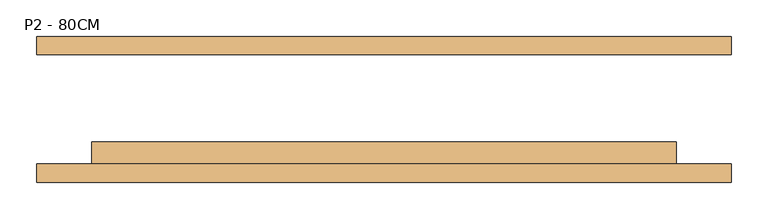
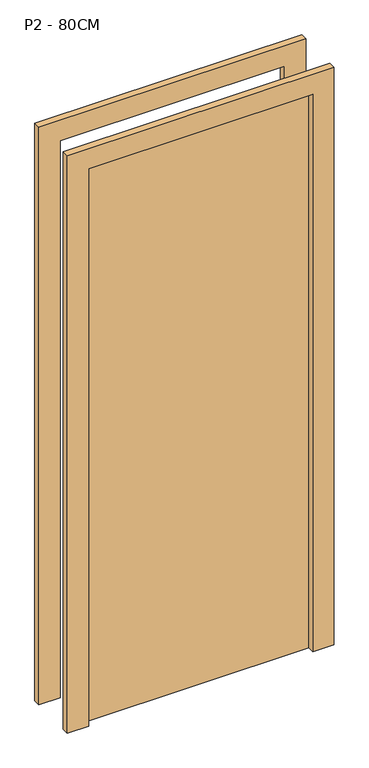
"""IFC4 building model written with IfcOpenShell, lengths in millimetres: door geometry, M_Folha única1 : P2 - 80CM."""

from ifc_helpers import new_model, si_unit, frame, origin, origin_with_axes, place, context, project, spatial, polyline, outline, extrude, source, transform, mapped, element, save


def p2_80cm_9d4be4ef(model_context):
    return source(origin(), model_context, "Body", "SweptSolid", [
        extrude(outline(polyline([(2176.0, -476.0), (0.0, -476.0), (0.0, -400.0), (2100.0, -400.0), (2100.0, 400.0), (0.0, 400.0), (0.0, 476.0), (2176.0, 476.0), (2176.0, -476.0)])), frame((0.0, -100.0, 0.0), z_axis=(0.0, 1.0, 0.0), x_axis=(0.0, 0.0, 1.0)), (0.0, 0.0, 1.0), 25.0),
        extrude(outline(polyline([(2176.0, 476.0), (2176.0, -476.0), (0.0, -476.0), (0.0, -400.0), (2100.0, -400.0), (2100.0, 400.0), (0.0, 400.0), (0.0, 476.0), (2176.0, 476.0)])), frame((0.0, 75.0, 0.0), z_axis=(0.0, 1.0, 0.0), x_axis=(0.0, 0.0, 1.0)), (0.0, 0.0, 1.0), 25.0),
        extrude(outline(polyline([(400.0, -45.0), (400.0, -75.0), (-400.0, -75.0), (-400.0, -45.0), (400.0, -45.0)])), origin_with_axes(), (0.0, 0.0, 1.0), 2100.0),
    ])


if __name__ == "__main__":
    model = new_model("IFC4")
    model_context = context("Model", 3, world=origin())
    ifc_project = project(units=[si_unit("LENGTHUNIT", "METRE", prefix="MILLI")], contexts=[model_context])
    site = spatial("IfcSite", under=ifc_project)
    building = spatial("IfcBuilding", under=site)
    placement = place(None, origin())
    p2_80cm_shape = p2_80cm_9d4be4ef(model_context)
    element("IfcDoor", 1, ObjectType="M_Folha única1 : P2 - 80CM", at=placement, inside=building, context=model_context, shape_type="MappedRepresentation", body=[
        mapped(p2_80cm_shape, transform((0.0, 0.0, 0.0), x_axis=(1.0, 0.0, 0.0), y_axis=(0.0, 1.0, 0.0), z_axis=(0.0, 0.0, 1.0))),
    ])
    save(model, "model.ifc")
